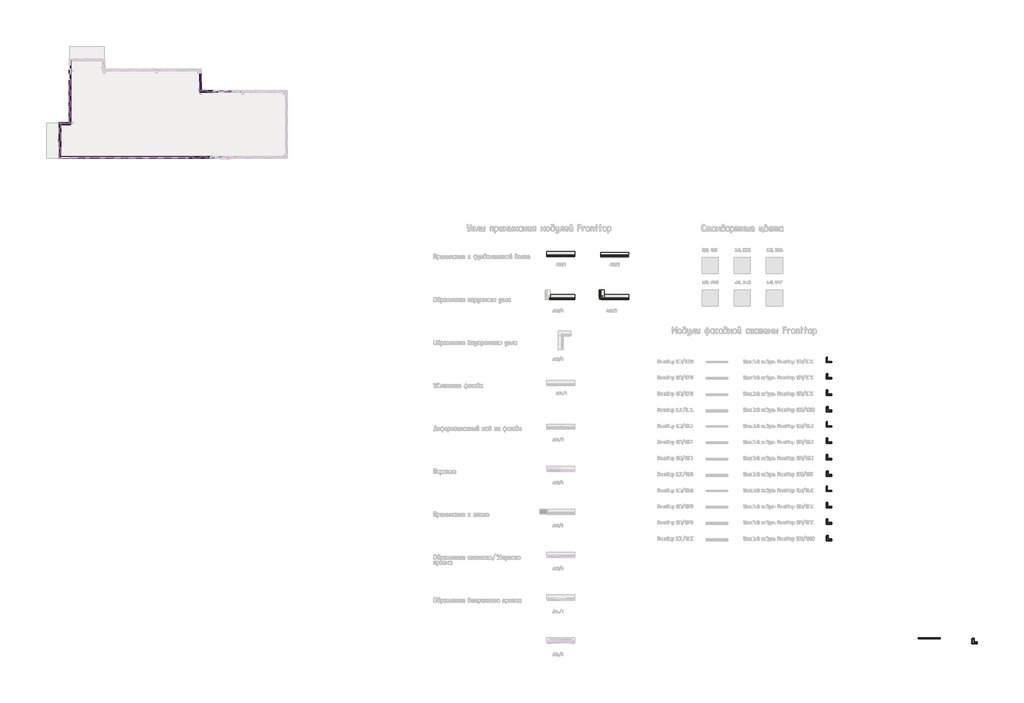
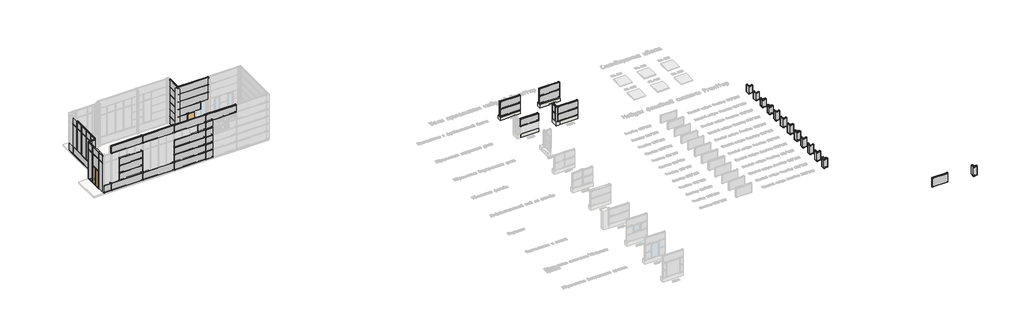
# One storey, part 2 of 37: 76 plates, 49 members, 5 walls, 2 doors.
"""IFC4 building model written with IfcOpenShell, lengths in millimetres."""

from ifc_helpers import new_model, si_unit, frame, origin, place, context, project, spatial, polyline, outline, extrude, faceted_brep, transform, mapped, element, save
from components import door_13e61a2d, door_73c47b8f, member_19b48848, member_60ea8178, member_1467ba8b, member_0bcd7f07, member_afb0b622, member_d378b2fa, member_7f0eb0d8, member_1360d4d5, member_b6a986cb, member_9443a213, member_ded9e280, member_bca74f28, member_2f80f005, member_458d3598, member_c640f651, member_561d3305, member_43d6c8c1, member_f6ba3ffe, member_50a310e9, member_60e476da, plate_00605f7b, plate_8c76a23d, plate_b143e3d3, plate_4cc33baf, plate_7c7baba4, plate_77f62aa5, plate_39042a1e, plate_61407ef3, plate_adcc6613, plate_a005b7e8, plate_de1b0bd9, plate_2dd25033, plate_2335a061, plate_3d081e60, plate_9b882203, plate_18d6e1de, plate_2167fe72, plate_63f1b3db, plate_d942872d, plate_74780102, plate_8fcb3820, plate_193a82d2, plate_190e3803, plate_88117748, plate_256fc86d, plate_e8e85041, plate_d1008bc7, plate_288d69b8, plate_0bb42676, plate_f072485e, plate_5b8e8318, plate_c792359b, plate_c6ed5419, plate_febac7e2, plate_f2ca9579, plate_e2e9dd5a, plate_540ac33f, plate_9b784b5d, plate_2d9094d1, plate_6557afd7, plate_e1a31c6e, plate_0956e401, plate_14ed3cdb, plate_e059e824, plate_a08c5f0f, plate_09dc59af, plate_f44200e2, plate_d0c9d429

model = new_model("IFC4")

# Units and contexts
model_context = context("Model", 3, world=origin())
ifc_project = project(units=[si_unit("LENGTHUNIT", "METRE", prefix="MILLI")], contexts=[model_context])

# Site, building, storey
site = spatial("IfcSite", under=ifc_project)
building = spatial("IfcBuilding", under=site)
storey = spatial("IfcBuildingStorey", under=building, Name="Этаж 01", Elevation=0.0)

# Doors
placement = place(None, origin())
door_shape = door_13e61a2d(model_context)
element("IfcDoor", 1, ObjectType="Дверь-Витраж-Двойная-Витрина : Дверь-Витраж-Двойная-Витрина", at=placement, inside=storey, context=model_context, shape_type="MappedRepresentation", body=[
    mapped(door_shape, transform((490.0, 1500.0, 75.0), x_axis=(0.0, 1.0, 0.0), y_axis=(-1.0, 0.0, 0.0), z_axis=(0.0, 0.0, 1.0))),
])
door_2_shape = door_73c47b8f(model_context)
element("IfcDoor", 2, ObjectType="Дверь-Витраж-Одинарная-Остекление Фронтсайд : Дверь-Витраж-Одинарная-Остекление Фронтсайд", at=placement, inside=storey, context=model_context, shape_type="MappedRepresentation", body=[
    mapped(door_2_shape, transform((15260.0, 6000.0, 25.0), x_axis=(1.0, 0.0, 0.0), y_axis=(0.0, 1.0, 0.0), z_axis=(0.0, 0.0, 1.0))),
])

# Members
member_shape = member_19b48848(model_context)
element("IfcMember", 3, ObjectType="Прямоугольный импост : 50х100", at=placement, inside=storey, context=model_context, shape_type="MappedRepresentation", body=[
    mapped(member_shape, transform((1500.0, 3100.0000002, 4025.0), x_axis=(1.0, 0.0, 0.0), y_axis=(0.0, -1.0, 0.0), z_axis=(0.0, 0.0, -1.0))),
])
element("IfcMember", 4, ObjectType="Прямоугольный импост : 50х100", at=placement, inside=storey, context=model_context, shape_type="MappedRepresentation", body=[
    mapped(member_shape, transform((540.0, 3100.0000002, 4975.0), x_axis=(-1.0, 0.0, 0.0), y_axis=(0.0, -1.0, 0.0), z_axis=(0.0, 0.0, 1.0))),
])
element("IfcMember", 5, ObjectType="Прямоугольный импост : 50х100", at=placement, inside=storey, context=model_context, shape_type="MappedRepresentation", body=[
    mapped(member_shape, transform((1400.0, 3165.0, 4975.0), x_axis=(0.0, -1.0, 0.0), y_axis=(1.0, 0.0, 0.0), z_axis=(0.0, 0.0, 1.0))),
])
member_2_shape = member_60ea8178(model_context)
element("IfcMember", 6, ObjectType="Прямоугольный импост : 50х100", at=placement, inside=storey, context=model_context, shape_type="MappedRepresentation", body=[
    mapped(member_2_shape, transform((1450.0, 3100.0000002, 4025.0), x_axis=(0.0, 0.0, 1.0), y_axis=(0.0, -1.0, 0.0), z_axis=(1.0, 0.0, 0.0))),
])
member_3_shape = member_1467ba8b(model_context)
element("IfcMember", 7, ObjectType="Прямоугольный импост : 50х100", at=placement, inside=storey, context=model_context, shape_type="MappedRepresentation", body=[
    mapped(member_3_shape, transform((1400.0, 4165.0, 1025.0), x_axis=(0.0, 0.0, -1.0), y_axis=(1.0, 0.0, 0.0), z_axis=(0.0, -1.0, 0.0))),
])
element("IfcMember", 8, ObjectType="Прямоугольный импост : 50х100", at=placement, inside=storey, context=model_context, shape_type="MappedRepresentation", body=[
    mapped(member_3_shape, transform((1400.0, 5165.0, 1025.0), x_axis=(0.0, 0.0, -1.0), y_axis=(1.0, 0.0, 0.0), z_axis=(0.0, -1.0, 0.0))),
])
element("IfcMember", 9, ObjectType="Прямоугольный импост : 50х100", at=placement, inside=storey, context=model_context, shape_type="MappedRepresentation", body=[
    mapped(member_3_shape, transform((1400.0, 6165.0, 1025.0), x_axis=(0.0, 0.0, -1.0), y_axis=(1.0, 0.0, 0.0), z_axis=(0.0, -1.0, 0.0))),
])
element("IfcMember", 10, ObjectType="Прямоугольный импост : 50х100", at=placement, inside=storey, context=model_context, shape_type="MappedRepresentation", body=[
    mapped(member_3_shape, transform((1400.0, 7165.0, 1025.0), x_axis=(0.0, 0.0, -1.0), y_axis=(1.0, 0.0, 0.0), z_axis=(0.0, -1.0, 0.0))),
])
element("IfcMember", 11, ObjectType="Прямоугольный импост : 50х100", at=placement, inside=storey, context=model_context, shape_type="MappedRepresentation", body=[
    mapped(member_3_shape, transform((1400.0, 5165.0, 5025.0), x_axis=(0.0, 0.0, 1.0), y_axis=(1.0, 0.0, 0.0), z_axis=(0.0, 1.0, 0.0))),
])
element("IfcMember", 12, ObjectType="Прямоугольный импост : 50х100", at=placement, inside=storey, context=model_context, shape_type="MappedRepresentation", body=[
    mapped(member_3_shape, transform((1400.0, 6165.0, 5025.0), x_axis=(0.0, 0.0, 1.0), y_axis=(1.0, 0.0, 0.0), z_axis=(0.0, 1.0, 0.0))),
])
element("IfcMember", 13, ObjectType="Прямоугольный импост : 50х100", at=placement, inside=storey, context=model_context, shape_type="MappedRepresentation", body=[
    mapped(member_3_shape, transform((1400.0, 7165.0, 5025.0), x_axis=(0.0, 0.0, 1.0), y_axis=(1.0, 0.0, 0.0), z_axis=(0.0, 1.0, 0.0))),
])
member_4_shape = member_0bcd7f07(model_context)
element("IfcMember", 14, ObjectType="Прямоугольный импост : 50х100", at=placement, inside=storey, context=model_context, shape_type="MappedRepresentation", body=[
    mapped(member_4_shape, transform((1500.0, 3100.0000002, 1075.0), x_axis=(1.0, 0.0, 0.0), y_axis=(0.0, -1.0, 0.0), z_axis=(0.0, 0.0, -1.0))),
])
element("IfcMember", 15, ObjectType="Прямоугольный импост : 50х100", at=placement, inside=storey, context=model_context, shape_type="MappedRepresentation", body=[
    mapped(member_4_shape, transform((540.0, 3100.0000002, 4025.0), x_axis=(-1.0, 0.0, 0.0), y_axis=(0.0, -1.0, 0.0), z_axis=(0.0, 0.0, 1.0))),
])
member_5_shape = member_afb0b622(model_context)
element("IfcMember", 16, ObjectType="Прямоугольный импост : 50х100", at=placement, inside=storey, context=model_context, shape_type="MappedRepresentation", body=[
    mapped(member_5_shape, transform((490.0, 3100.0, 5025.0), x_axis=(0.0, 0.0, 1.0), y_axis=(1.0, 0.0, 0.0), z_axis=(0.0, 1.0, 0.0))),
])
member_6_shape = member_d378b2fa(model_context)
element("IfcMember", 17, ObjectType="Прямоугольный импост : 50х100", at=placement, inside=storey, context=model_context, shape_type="MappedRepresentation", body=[
    mapped(member_6_shape, transform((490.0, 2200.0, 5025.0), x_axis=(0.0, 0.0, 1.0), y_axis=(1.0, 0.0, 0.0), z_axis=(0.0, 1.0, 0.0))),
])
element("IfcMember", 18, ObjectType="Прямоугольный импост : 50х100", at=placement, inside=storey, context=model_context, shape_type="MappedRepresentation", body=[
    mapped(member_shape, transform((490.0, 2200.0, 25.0), x_axis=(0.0, 0.0, -1.0), y_axis=(1.0, 0.0, 0.0), z_axis=(0.0, -1.0, 0.0))),
])
element("IfcMember", 19, ObjectType="Прямоугольный импост : 50х100", at=placement, inside=storey, context=model_context, shape_type="MappedRepresentation", body=[
    mapped(member_shape, transform((490.0, 800.0, 5025.0), x_axis=(0.0, 0.0, 1.0), y_axis=(1.0, 0.0, 0.0), z_axis=(0.0, 1.0, 0.0))),
])
element("IfcMember", 20, ObjectType="Прямоугольный импост : 50х100", at=placement, inside=storey, context=model_context, shape_type="MappedRepresentation", body=[
    mapped(member_6_shape, transform((490.0, 800.0, 25.0), x_axis=(0.0, 0.0, -1.0), y_axis=(1.0, 0.0, 0.0), z_axis=(0.0, -1.0, 0.0))),
])
member_7_shape = member_7f0eb0d8(model_context)
element("IfcMember", 21, ObjectType="Прямоугольный импост : 50х100", at=placement, inside=storey, context=model_context, shape_type="MappedRepresentation", body=[
    mapped(member_7_shape, transform((490.0, 3150.0, 75.0), x_axis=(0.0, 1.0, 0.0), y_axis=(1.0, 0.0, 0.0), z_axis=(0.0, 0.0, -1.0))),
])
member_8_shape = member_1360d4d5(model_context)
element("IfcMember", 22, ObjectType="Прямоугольный импост : 50х100", at=placement, inside=storey, context=model_context, shape_type="MappedRepresentation", body=[
    mapped(member_8_shape, transform((1500.0, 3100.0000002, 5025.0), x_axis=(0.0, 0.0, 1.0), y_axis=(0.0, -1.0, 0.0), z_axis=(1.0, 0.0, 0.0))),
])
element("IfcMember", 23, ObjectType="Прямоугольный импост : 50х100", at=placement, inside=storey, context=model_context, shape_type="MappedRepresentation", body=[
    mapped(member_8_shape, transform((540.0, 3100.0000002, 1025.0), x_axis=(0.0, 0.0, -1.0), y_axis=(0.0, -1.0, 0.0), z_axis=(-1.0, 0.0, 0.0))),
])
element("IfcMember", 24, ObjectType="Прямоугольный импост : 50х100", at=placement, inside=storey, context=model_context, shape_type="MappedRepresentation", body=[
    mapped(member_3_shape, transform((490.0, 3150.0, 4025.0), x_axis=(0.0, 1.0, 0.0), y_axis=(1.0, 0.0, 0.0), z_axis=(0.0, 0.0, -1.0))),
])
member_9_shape = member_b6a986cb(model_context)
element("IfcMember", 25, ObjectType="Прямоугольный импост : 50х100", at=placement, inside=storey, context=model_context, shape_type="MappedRepresentation", body=[
    mapped(member_9_shape, transform((1400.0, 3165.0, 4025.0), x_axis=(0.0, -1.0, 0.0), y_axis=(1.0, 0.0, 0.0), z_axis=(0.0, 0.0, 1.0))),
])
member_10_shape = member_9443a213(model_context)
element("IfcMember", 26, ObjectType="Прямоугольный импост : 50х100", at=placement, inside=storey, context=model_context, shape_type="MappedRepresentation", body=[
    mapped(member_10_shape, transform((490.0, 3150.0, 2425.0), x_axis=(0.0, 1.0, 0.0), y_axis=(1.0, 0.0, 0.0), z_axis=(0.0, 0.0, -1.0))),
])
element("IfcMember", 27, ObjectType="Прямоугольный импост : 50х100", at=placement, inside=storey, context=model_context, shape_type="MappedRepresentation", body=[
    mapped(member_shape, transform((1400.0, 3215.0, 1025.0), x_axis=(0.0, 0.0, -1.0), y_axis=(1.0, 0.0, 0.0), z_axis=(0.0, -1.0, 0.0))),
])
member_11_shape = member_ded9e280(model_context)
element("IfcMember", 28, ObjectType="Прямоугольный импост : 50х100", at=placement, inside=storey, context=model_context, shape_type="MappedRepresentation", body=[
    mapped(member_11_shape, transform((1400.0, 4165.0, 4025.0), x_axis=(0.0, 0.0, 1.0), y_axis=(1.0, 0.0, 0.0), z_axis=(0.0, 1.0, 0.0))),
])
member_12_shape = member_bca74f28(model_context)
element("IfcMember", 29, ObjectType="Прямоугольный импост : 50х100", at=placement, inside=storey, context=model_context, shape_type="MappedRepresentation", body=[
    mapped(member_12_shape, transform((1400.0, 5165.0, 4025.0), x_axis=(0.0, 0.0, 1.0), y_axis=(1.0, 0.0, 0.0), z_axis=(0.0, 1.0, 0.0))),
])
element("IfcMember", 30, ObjectType="Прямоугольный импост : 50х100", at=placement, inside=storey, context=model_context, shape_type="MappedRepresentation", body=[
    mapped(member_12_shape, transform((1400.0, 6165.0, 4025.0), x_axis=(0.0, 0.0, 1.0), y_axis=(1.0, 0.0, 0.0), z_axis=(0.0, 1.0, 0.0))),
])
element("IfcMember", 31, ObjectType="Прямоугольный импост : 50х100", at=placement, inside=storey, context=model_context, shape_type="MappedRepresentation", body=[
    mapped(member_12_shape, transform((1400.0, 7165.0, 4025.0), x_axis=(0.0, 0.0, 1.0), y_axis=(1.0, 0.0, 0.0), z_axis=(0.0, 1.0, 0.0))),
])
element("IfcMember", 32, ObjectType="Прямоугольный импост : 50х100", at=placement, inside=storey, context=model_context, shape_type="MappedRepresentation", body=[
    mapped(member_12_shape, transform((1400.0, 8165.0, 4025.0), x_axis=(0.0, 0.0, 1.0), y_axis=(1.0, 0.0, 0.0), z_axis=(0.0, 1.0, 0.0))),
])
member_13_shape = member_2f80f005(model_context)
element("IfcMember", 33, ObjectType="Прямоугольный импост : 50х100", at=placement, inside=storey, context=model_context, shape_type="MappedRepresentation", body=[
    mapped(member_13_shape, transform((1400.0, 4165.0, 1075.0), x_axis=(0.0, 1.0, 0.0), y_axis=(1.0, 0.0, 0.0), z_axis=(0.0, 0.0, -1.0))),
])
element("IfcMember", 34, ObjectType="Прямоугольный импост : 50х100", at=placement, inside=storey, context=model_context, shape_type="MappedRepresentation", body=[
    mapped(member_13_shape, transform((1400.0, 5165.0, 1075.0), x_axis=(0.0, 1.0, 0.0), y_axis=(1.0, 0.0, 0.0), z_axis=(0.0, 0.0, -1.0))),
])
element("IfcMember", 35, ObjectType="Прямоугольный импост : 50х100", at=placement, inside=storey, context=model_context, shape_type="MappedRepresentation", body=[
    mapped(member_13_shape, transform((1400.0, 6165.0, 1075.0), x_axis=(0.0, 1.0, 0.0), y_axis=(1.0, 0.0, 0.0), z_axis=(0.0, 0.0, -1.0))),
])
element("IfcMember", 36, ObjectType="Прямоугольный импост : 50х100", at=placement, inside=storey, context=model_context, shape_type="MappedRepresentation", body=[
    mapped(member_13_shape, transform((1400.0, 7165.0, 1075.0), x_axis=(0.0, 1.0, 0.0), y_axis=(1.0, 0.0, 0.0), z_axis=(0.0, 0.0, -1.0))),
])
member_14_shape = member_458d3598(model_context)
element("IfcMember", 37, ObjectType="Прямоугольный импост : 50х100", at=placement, inside=storey, context=model_context, shape_type="MappedRepresentation", body=[
    mapped(member_14_shape, transform((490.0, 2200.0, 4050.0), x_axis=(0.0, 1.0, 0.0), y_axis=(1.0, 0.0, 0.0), z_axis=(0.0, 0.0, -1.0))),
])
element("IfcMember", 38, ObjectType="Прямоугольный импост : 50х100", at=placement, inside=storey, context=model_context, shape_type="MappedRepresentation", body=[
    mapped(member_14_shape, transform((490.0, 800.0, 4050.0), x_axis=(0.0, 1.0, 0.0), y_axis=(1.0, 0.0, 0.0), z_axis=(0.0, 0.0, -1.0))),
])
element("IfcMember", 39, ObjectType="Прямоугольный импост : 50х100", at=placement, inside=storey, context=model_context, shape_type="MappedRepresentation", body=[
    mapped(member_14_shape, transform((1400.0, 4165.0, 4050.0), x_axis=(0.0, 1.0, 0.0), y_axis=(1.0, 0.0, 0.0), z_axis=(0.0, 0.0, -1.0))),
])
element("IfcMember", 40, ObjectType="Прямоугольный импост : 50х100", at=placement, inside=storey, context=model_context, shape_type="MappedRepresentation", body=[
    mapped(member_14_shape, transform((1400.0, 5165.0, 4050.0), x_axis=(0.0, 1.0, 0.0), y_axis=(1.0, 0.0, 0.0), z_axis=(0.0, 0.0, -1.0))),
])
element("IfcMember", 41, ObjectType="Прямоугольный импост : 50х100", at=placement, inside=storey, context=model_context, shape_type="MappedRepresentation", body=[
    mapped(member_14_shape, transform((1400.0, 6165.0, 4050.0), x_axis=(0.0, 1.0, 0.0), y_axis=(1.0, 0.0, 0.0), z_axis=(0.0, 0.0, -1.0))),
])
element("IfcMember", 42, ObjectType="Прямоугольный импост : 50х100", at=placement, inside=storey, context=model_context, shape_type="MappedRepresentation", body=[
    mapped(member_14_shape, transform((1400.0, 7165.0, 4050.0), x_axis=(0.0, 1.0, 0.0), y_axis=(1.0, 0.0, 0.0), z_axis=(0.0, 0.0, -1.0))),
])
member_15_shape = member_c640f651(model_context)
element("IfcMember", 43, ObjectType="Прямоугольный импост : 50х100", at=placement, inside=storey, context=model_context, shape_type="MappedRepresentation", body=[
    mapped(member_15_shape, transform((490.0, 800.0, 4025.0), x_axis=(0.0, 0.0, 1.0), y_axis=(1.0, 0.0, 0.0), z_axis=(0.0, 1.0, 0.0))),
])
element("IfcMember", 44, ObjectType="Прямоугольный импост : 50х100", at=placement, inside=storey, context=model_context, shape_type="MappedRepresentation", body=[
    mapped(member_15_shape, transform((490.0, 3100.0, 4025.0), x_axis=(0.0, 0.0, 1.0), y_axis=(1.0, 0.0, 0.0), z_axis=(0.0, 1.0, 0.0))),
])
member_16_shape = member_561d3305(model_context)
element("IfcMember", 45, ObjectType="Прямоугольный импост : 50х100", at=placement, inside=storey, context=model_context, shape_type="MappedRepresentation", body=[
    mapped(member_16_shape, transform((490.0, 2200.0, 75.0), x_axis=(0.0, 1.0, 0.0), y_axis=(1.0, 0.0, 0.0), z_axis=(0.0, 0.0, -1.0))),
])
element("IfcMember", 46, ObjectType="Прямоугольный импост : 50х100", at=placement, inside=storey, context=model_context, shape_type="MappedRepresentation", body=[
    mapped(member_16_shape, transform((490.0, 800.0, 75.0), x_axis=(0.0, 1.0, 0.0), y_axis=(1.0, 0.0, 0.0), z_axis=(0.0, 0.0, -1.0))),
])
member_17_shape = member_43d6c8c1(model_context)
element("IfcMember", 47, ObjectType="Прямоугольный импост : 50х100", at=placement, inside=storey, context=model_context, shape_type="MappedRepresentation", body=[
    mapped(member_17_shape, transform((490.0, 2200.0, 4025.0), x_axis=(0.0, 0.0, 1.0), y_axis=(1.0, 0.0, 0.0), z_axis=(0.0, 1.0, 0.0))),
])
member_18_shape = member_f6ba3ffe(model_context)
element("IfcMember", 48, ObjectType="Прямоугольный импост : 50х100", at=placement, inside=storey, context=model_context, shape_type="MappedRepresentation", body=[
    mapped(member_18_shape, transform((490.0, 2225.0, 2425.0), x_axis=(0.0, 0.0, 1.0), y_axis=(1.0, 0.0, 0.0), z_axis=(0.0, 1.0, 0.0))),
])
member_19_shape = member_50a310e9(model_context)
element("IfcMember", 49, ObjectType="Прямоугольный импост : 50х100", at=placement, inside=storey, context=model_context, shape_type="MappedRepresentation", body=[
    mapped(member_19_shape, transform((490.0, 800.0, 2450.0), x_axis=(0.0, 1.0, 0.0), y_axis=(1.0, 0.0, 0.0), z_axis=(0.0, 0.0, -1.0))),
])
element("IfcMember", 50, ObjectType="Прямоугольный импост : 50х100", at=placement, inside=storey, context=model_context, shape_type="MappedRepresentation", body=[
    mapped(member_19_shape, transform((490.0, 2200.0, 2450.0), x_axis=(0.0, 1.0, 0.0), y_axis=(1.0, 0.0, 0.0), z_axis=(0.0, 0.0, -1.0))),
])
member_20_shape = member_60e476da(model_context)
element("IfcMember", 51, ObjectType="Прямоугольный импост : 50х100", at=placement, inside=storey, context=model_context, shape_type="MappedRepresentation", body=[
    mapped(member_20_shape, transform((1400.0, 4165.0, 5025.0), x_axis=(0.0, 0.0, 1.0), y_axis=(1.0, 0.0, 0.0), z_axis=(0.0, 1.0, 0.0))),
])

# Plates
plate_shape = plate_00605f7b(model_context)
element("IfcPlate", 52, ObjectType="Системная панель : ADSK_Cтеклопакет_25", at=placement, inside=storey, context=model_context, shape_type="MappedRepresentation", body=[
    mapped(plate_shape, transform((1400.0, 3677.5, 4050.0), x_axis=(0.0, 1.0, 0.0), y_axis=(-1.0, 0.0, 0.0), z_axis=(0.0, 0.0, 1.0))),
])
plate_2_shape = plate_8c76a23d(model_context)
element("IfcPlate", 53, ObjectType="Системная панель : ADSK_Cтеклопакет_25", at=placement, inside=storey, context=model_context, shape_type="MappedRepresentation", body=[
    mapped(plate_2_shape, transform((1400.0, 3677.5, 1075.0), x_axis=(0.0, 1.0, 0.0), y_axis=(-1.0, 0.0, 0.0), z_axis=(0.0, 0.0, 1.0))),
])
plate_3_shape = plate_b143e3d3(model_context)
element("IfcPlate", 54, ObjectType="Системная панель : ADSK_Cтеклопакет_25", at=placement, inside=storey, context=model_context, shape_type="MappedRepresentation", body=[
    mapped(plate_3_shape, transform((1400.0, 4665.0, 1075.0), x_axis=(0.0, 1.0, 0.0), y_axis=(-1.0, 0.0, 0.0), z_axis=(0.0, 0.0, 1.0))),
])
element("IfcPlate", 55, ObjectType="Системная панель : ADSK_Cтеклопакет_25", at=placement, inside=storey, context=model_context, shape_type="MappedRepresentation", body=[
    mapped(plate_3_shape, transform((1400.0, 5665.0, 1075.0), x_axis=(0.0, 1.0, 0.0), y_axis=(-1.0, 0.0, 0.0), z_axis=(0.0, 0.0, 1.0))),
])
element("IfcPlate", 56, ObjectType="Системная панель : ADSK_Cтеклопакет_25", at=placement, inside=storey, context=model_context, shape_type="MappedRepresentation", body=[
    mapped(plate_3_shape, transform((1400.0, 6665.0, 1075.0), x_axis=(0.0, 1.0, 0.0), y_axis=(-1.0, 0.0, 0.0), z_axis=(0.0, 0.0, 1.0))),
])
element("IfcPlate", 57, ObjectType="Системная панель : ADSK_Cтеклопакет_25", at=placement, inside=storey, context=model_context, shape_type="MappedRepresentation", body=[
    mapped(plate_3_shape, transform((1400.0, 7665.0, 1075.0), x_axis=(0.0, 1.0, 0.0), y_axis=(-1.0, 0.0, 0.0), z_axis=(0.0, 0.0, 1.0))),
])
plate_4_shape = plate_4cc33baf(model_context)
element("IfcPlate", 58, ObjectType="Системная панель : ADSK_Cтеклопакет_25", at=placement, inside=storey, context=model_context, shape_type="MappedRepresentation", body=[
    mapped(plate_4_shape, transform((1400.0, 4665.0, 4050.0), x_axis=(0.0, 1.0, 0.0), y_axis=(-1.0, 0.0, 0.0), z_axis=(0.0, 0.0, 1.0))),
])
element("IfcPlate", 59, ObjectType="Системная панель : ADSK_Cтеклопакет_25", at=placement, inside=storey, context=model_context, shape_type="MappedRepresentation", body=[
    mapped(plate_4_shape, transform((1400.0, 5665.0, 4050.0), x_axis=(0.0, 1.0, 0.0), y_axis=(-1.0, 0.0, 0.0), z_axis=(0.0, 0.0, 1.0))),
])
element("IfcPlate", 60, ObjectType="Системная панель : ADSK_Cтеклопакет_25", at=placement, inside=storey, context=model_context, shape_type="MappedRepresentation", body=[
    mapped(plate_4_shape, transform((1400.0, 6665.0, 4050.0), x_axis=(0.0, 1.0, 0.0), y_axis=(-1.0, 0.0, 0.0), z_axis=(0.0, 0.0, 1.0))),
])
element("IfcPlate", 61, ObjectType="Системная панель : ADSK_Cтеклопакет_25", at=placement, inside=storey, context=model_context, shape_type="MappedRepresentation", body=[
    mapped(plate_4_shape, transform((1400.0, 7665.0, 4050.0), x_axis=(0.0, 1.0, 0.0), y_axis=(-1.0, 0.0, 0.0), z_axis=(0.0, 0.0, 1.0))),
])
plate_5_shape = plate_7c7baba4(model_context)
element("IfcPlate", 62, ObjectType="Системная панель : ADSK_Cтеклопакет_25", at=placement, inside=storey, context=model_context, shape_type="MappedRepresentation", body=[
    mapped(plate_5_shape, transform((490.0, 337.5, 4050.0), x_axis=(0.0, 1.0, 0.0), y_axis=(-1.0, 0.0, 0.0), z_axis=(0.0, 0.0, 1.0))),
])
element("IfcPlate", 63, ObjectType="Системная панель : ADSK_Cтеклопакет_25", at=placement, inside=storey, context=model_context, shape_type="MappedRepresentation", body=[
    mapped(plate_5_shape, transform((490.0, 2662.5, 4050.0), x_axis=(0.0, 1.0, 0.0), y_axis=(-1.0, 0.0, 0.0), z_axis=(0.0, 0.0, 1.0))),
])
plate_6_shape = plate_77f62aa5(model_context)
element("IfcPlate", 64, ObjectType="Системная панель : ADSK_Cтеклопакет_25", at=placement, inside=storey, context=model_context, shape_type="MappedRepresentation", body=[
    mapped(plate_6_shape, transform((490.0, 1500.0, 4050.0), x_axis=(0.0, 1.0, 0.0), y_axis=(-1.0, 0.0, 0.0), z_axis=(0.0, 0.0, 1.0))),
])
plate_7_shape = plate_39042a1e(model_context)
element("IfcPlate", 65, ObjectType="Системная панель : ADSK_Cтеклопакет_25", at=placement, inside=storey, context=model_context, shape_type="MappedRepresentation", body=[
    mapped(plate_7_shape, transform((490.0, 1500.0, 2450.0), x_axis=(0.0, 1.0, 0.0), y_axis=(-1.0, 0.0, 0.0), z_axis=(0.0, 0.0, 1.0))),
])
plate_8_shape = plate_61407ef3(model_context)
element("IfcPlate", 66, ObjectType="Системная панель : ADSK_Cтеклопакет_25", at=placement, inside=storey, context=model_context, shape_type="MappedRepresentation", body=[
    mapped(plate_8_shape, transform((490.0, 337.5, 75.0), x_axis=(0.0, 1.0, 0.0), y_axis=(-1.0, 0.0, 0.0), z_axis=(0.0, 0.0, 1.0))),
])
element("IfcPlate", 67, ObjectType="Системная панель : ADSK_Cтеклопакет_25", at=placement, inside=storey, context=model_context, shape_type="MappedRepresentation", body=[
    mapped(plate_8_shape, transform((490.0, 2662.5, 75.0), x_axis=(0.0, 1.0, 0.0), y_axis=(-1.0, 0.0, 0.0), z_axis=(0.0, 0.0, 1.0))),
])
plate_9_shape = plate_adcc6613(model_context)
element("IfcPlate", 68, ObjectType="Системная панель : ADSK_Cтеклопакет_25", at=placement, inside=storey, context=model_context, shape_type="MappedRepresentation", body=[
    mapped(plate_9_shape, transform((1020.0, 3100.0000002, 1075.0), x_axis=(1.0, 0.0, 0.0), y_axis=(0.0, 1.0, 0.0), z_axis=(0.0, 0.0, 1.0))),
])
plate_10_shape = plate_a005b7e8(model_context)
element("IfcPlate", 69, ObjectType="Системная панель : ADSK_Cтеклопакет_25", at=placement, inside=storey, context=model_context, shape_type="MappedRepresentation", body=[
    mapped(plate_10_shape, transform((1020.0, 3100.0000002, 4050.0), x_axis=(1.0, 0.0, 0.0), y_axis=(0.0, 1.0, 0.0), z_axis=(0.0, 0.0, 1.0))),
])
plate_11_shape = plate_de1b0bd9(model_context)
element("IfcPlate", 70, ObjectType="Fronttop : Fronttop 150/1000", at=placement, inside=storey, context=model_context, shape_type="MappedRepresentation", body=[
    mapped(plate_11_shape, transform((14115.0, 6000.0, 25.0), x_axis=(1.0, 0.0, 0.0), y_axis=(0.0, 1.0, 0.0), z_axis=(0.0, 0.0, 1.0))),
])
element("IfcPlate", 71, ObjectType="Fronttop : Fronttop 150/1000", at=placement, inside=storey, context=model_context, shape_type="MappedRepresentation", body=[
    mapped(plate_11_shape, transform((14115.0, 6000.0, 1025.0), x_axis=(1.0, 0.0, 0.0), y_axis=(0.0, 1.0, 0.0), z_axis=(0.0, 0.0, 1.0))),
])
plate_12_shape = plate_2dd25033(model_context)
element("IfcPlate", 72, ObjectType="Fronttop : Fronttop 150/1000", at=placement, inside=storey, context=model_context, shape_type="MappedRepresentation", body=[
    mapped(plate_12_shape, transform((14995.0, 6000.0, 2025.0), x_axis=(1.0, 0.0, 0.0), y_axis=(0.0, 1.0, 0.0), z_axis=(0.0, 0.0, 1.0))),
])
plate_13_shape = plate_2335a061(model_context)
element("IfcPlate", 73, ObjectType="Fronttop : Fronttop 150/1000", at=placement, inside=storey, context=model_context, shape_type="MappedRepresentation", body=[
    mapped(plate_13_shape, transform((15500.0, 6000.0, 3025.0), x_axis=(1.0, 0.0, 0.0), y_axis=(0.0, 1.0, 0.0), z_axis=(0.0, 0.0, 1.0))),
])
element("IfcPlate", 74, ObjectType="Fronttop : Fronttop 150/1000", at=placement, inside=storey, context=model_context, shape_type="MappedRepresentation", body=[
    mapped(plate_13_shape, transform((15500.0, 6000.0, 4025.0), x_axis=(1.0, 0.0, 0.0), y_axis=(0.0, 1.0, 0.0), z_axis=(0.0, 0.0, 1.0))),
])
element("IfcPlate", 75, ObjectType="Fronttop : Fronttop 150/1000", at=placement, inside=storey, context=model_context, shape_type="MappedRepresentation", body=[
    mapped(plate_13_shape, transform((15500.0, 6000.0, 5025.0), x_axis=(1.0, 0.0, 0.0), y_axis=(0.0, 1.0, 0.0), z_axis=(0.0, 0.0, 1.0))),
])
plate_14_shape = plate_3d081e60(model_context)
element("IfcPlate", 76, ObjectType="Fronttop : Fronttop 150/1000", at=placement, inside=storey, context=model_context, shape_type="MappedRepresentation", body=[
    mapped(plate_14_shape, transform((13500.0578348, 6982.5577046, 25.0), x_axis=(0.0, -1.0, 0.0), y_axis=(1.0, 0.0, 0.0), z_axis=(0.0, 0.0, 1.0))),
])
element("IfcPlate", 77, ObjectType="Fronttop : Fronttop 150/1000", at=placement, inside=storey, context=model_context, shape_type="MappedRepresentation", body=[
    mapped(plate_14_shape, transform((13500.0578348, 6982.5577046, 1025.0), x_axis=(0.0, -1.0, 0.0), y_axis=(1.0, 0.0, 0.0), z_axis=(0.0, 0.0, 1.0))),
])
element("IfcPlate", 78, ObjectType="Fronttop : Fronttop 150/1000", at=placement, inside=storey, context=model_context, shape_type="MappedRepresentation", body=[
    mapped(plate_14_shape, transform((13500.0578348, 6982.5577046, 2025.0), x_axis=(0.0, -1.0, 0.0), y_axis=(1.0, 0.0, 0.0), z_axis=(0.0, 0.0, 1.0))),
])
element("IfcPlate", 79, ObjectType="Fronttop : Fronttop 150/1000", at=placement, inside=storey, context=model_context, shape_type="MappedRepresentation", body=[
    mapped(plate_14_shape, transform((13500.0578348, 6982.5577046, 3025.0), x_axis=(0.0, -1.0, 0.0), y_axis=(1.0, 0.0, 0.0), z_axis=(0.0, 0.0, 1.0))),
])
element("IfcPlate", 80, ObjectType="Fronttop : Fronttop 150/1000", at=placement, inside=storey, context=model_context, shape_type="MappedRepresentation", body=[
    mapped(plate_14_shape, transform((13500.0578348, 6982.5577046, 4025.0), x_axis=(0.0, -1.0, 0.0), y_axis=(1.0, 0.0, 0.0), z_axis=(0.0, 0.0, 1.0))),
])
element("IfcPlate", 81, ObjectType="Fronttop : Fronttop 150/1000", at=placement, inside=storey, context=model_context, shape_type="MappedRepresentation", body=[
    mapped(plate_14_shape, transform((13500.0578348, 6982.5577046, 5025.0), x_axis=(0.0, -1.0, 0.0), y_axis=(1.0, 0.0, 0.0), z_axis=(0.0, 0.0, 1.0))),
])
element("IfcPlate", 82, ObjectType="Fronttop : Fronttop 150/1000", at=placement, inside=storey, context=model_context, shape_type="MappedRepresentation", body=[
    mapped(plate_13_shape, transform((11500.0, 0.0, 25.0), x_axis=(-1.0, 0.0, 0.0), y_axis=(0.0, -1.0, 0.0), z_axis=(0.0, 0.0, 1.0))),
])
element("IfcPlate", 83, ObjectType="Fronttop : Fronttop 150/1000", at=placement, inside=storey, context=model_context, shape_type="MappedRepresentation", body=[
    mapped(plate_13_shape, transform((11500.0, 0.0, 1025.0), x_axis=(-1.0, 0.0, 0.0), y_axis=(0.0, -1.0, 0.0), z_axis=(0.0, 0.0, 1.0))),
])
element("IfcPlate", 84, ObjectType="Fronttop : Fronttop 150/1000", at=placement, inside=storey, context=model_context, shape_type="MappedRepresentation", body=[
    mapped(plate_13_shape, transform((11500.0, 0.0, 2025.0), x_axis=(-1.0, 0.0, 0.0), y_axis=(0.0, -1.0, 0.0), z_axis=(0.0, 0.0, 1.0))),
])
element("IfcPlate", 85, ObjectType="Fronttop : Fronttop 150/1000", at=placement, inside=storey, context=model_context, shape_type="MappedRepresentation", body=[
    mapped(plate_13_shape, transform((11500.0, 0.0, 3025.0), x_axis=(-1.0, 0.0, 0.0), y_axis=(0.0, -1.0, 0.0), z_axis=(0.0, 0.0, 1.0))),
])
element("IfcPlate", 86, ObjectType="Fronttop : Fronttop 150/1000", at=placement, inside=storey, context=model_context, shape_type="MappedRepresentation", body=[
    mapped(plate_13_shape, transform((11500.0, 0.0, 5025.0), x_axis=(-1.0, 0.0, 0.0), y_axis=(0.0, -1.0, 0.0), z_axis=(0.0, 0.0, 1.0))),
])
element("IfcPlate", 87, ObjectType="Fronttop : Fronttop 150/1000", at=placement, inside=storey, context=model_context, shape_type="MappedRepresentation", body=[
    mapped(plate_13_shape, transform((7500.0, 0.0, 25.0), x_axis=(-1.0, 0.0, 0.0), y_axis=(0.0, -1.0, 0.0), z_axis=(0.0, 0.0, 1.0))),
])
element("IfcPlate", 88, ObjectType="Fronttop : Fronttop 150/1000", at=placement, inside=storey, context=model_context, shape_type="MappedRepresentation", body=[
    mapped(plate_13_shape, transform((7500.0, 0.0, 5025.0), x_axis=(-1.0, 0.0, 0.0), y_axis=(0.0, -1.0, 0.0), z_axis=(0.0, 0.0, 1.0))),
])
element("IfcPlate", 89, ObjectType="Fronttop : Fronttop 150/1000", at=placement, inside=storey, context=model_context, shape_type="MappedRepresentation", body=[
    mapped(plate_13_shape, transform((3500.0, 0.0, 25.0), x_axis=(-1.0, 0.0, 0.0), y_axis=(0.0, -1.0, 0.0), z_axis=(0.0, 0.0, 1.0))),
])
element("IfcPlate", 90, ObjectType="Fronttop : Fronttop 150/1000", at=placement, inside=storey, context=model_context, shape_type="MappedRepresentation", body=[
    mapped(plate_13_shape, transform((3500.0, 0.0, 5025.0), x_axis=(-1.0, 0.0, 0.0), y_axis=(0.0, -1.0, 0.0), z_axis=(0.0, 0.0, 1.0))),
])
element("IfcPlate", 91, ObjectType="Fronttop : Fronttop 150/1000", at=placement, inside=storey, context=model_context, shape_type="MappedRepresentation", body=[
    mapped(plate_13_shape, transform((15500.0, 0.0, 5025.0), x_axis=(-1.0, 0.0, 0.0), y_axis=(0.0, -1.0, 0.0), z_axis=(0.0, 0.0, 1.0))),
])
plate_15_shape = plate_9b882203(model_context)
element("IfcPlate", 92, ObjectType="Fronttop : Fronttop 150/1000", at=placement, inside=storey, context=model_context, shape_type="MappedRepresentation", body=[
    mapped(plate_15_shape, transform((4000.0, 0.0, 1025.0), x_axis=(-1.0, 0.0, 0.0), y_axis=(0.0, -1.0, 0.0), z_axis=(0.0, 0.0, 1.0))),
])
element("IfcPlate", 93, ObjectType="Fronttop : Fronttop 150/1000", at=placement, inside=storey, context=model_context, shape_type="MappedRepresentation", body=[
    mapped(plate_15_shape, transform((4000.0, 0.0, 2025.0), x_axis=(-1.0, 0.0, 0.0), y_axis=(0.0, -1.0, 0.0), z_axis=(0.0, 0.0, 1.0))),
])
element("IfcPlate", 94, ObjectType="Fronttop : Fronttop 150/1000", at=placement, inside=storey, context=model_context, shape_type="MappedRepresentation", body=[
    mapped(plate_15_shape, transform((4000.0, 0.0, 3025.0), x_axis=(-1.0, 0.0, 0.0), y_axis=(0.0, -1.0, 0.0), z_axis=(0.0, 0.0, 1.0))),
])
plate_16_shape = plate_18d6e1de(model_context)
element("IfcPlate", 95, ObjectType="Fronttop : Fronttop 150/1000", at=placement, inside=storey, context=model_context, shape_type="MappedRepresentation", body=[
    mapped(plate_16_shape, transform((14000.0, 0.0, 25.0), x_axis=(-1.0, 0.0, 0.0), y_axis=(0.0, -1.0, 0.0), z_axis=(0.0, 0.0, 1.0))),
])
element("IfcPlate", 96, ObjectType="Fronttop : Fronttop 150/1000", at=placement, inside=storey, context=model_context, shape_type="MappedRepresentation", body=[
    mapped(plate_16_shape, transform((14000.0, 0.0, 1025.0), x_axis=(-1.0, 0.0, 0.0), y_axis=(0.0, -1.0, 0.0), z_axis=(0.0, 0.0, 1.0))),
])
element("IfcPlate", 97, ObjectType="Fronttop : Fronttop 150/1000", at=placement, inside=storey, context=model_context, shape_type="MappedRepresentation", body=[
    mapped(plate_16_shape, transform((14000.0, 0.0, 2025.0), x_axis=(-1.0, 0.0, 0.0), y_axis=(0.0, -1.0, 0.0), z_axis=(0.0, 0.0, 1.0))),
])
element("IfcPlate", 98, ObjectType="Fronttop : Fronttop 150/1000", at=placement, inside=storey, context=model_context, shape_type="MappedRepresentation", body=[
    mapped(plate_16_shape, transform((14000.0, 0.0, 3025.0), x_axis=(-1.0, 0.0, 0.0), y_axis=(0.0, -1.0, 0.0), z_axis=(0.0, 0.0, 1.0))),
])
element("IfcPlate", 99, ObjectType="Fronttop : Fronttop 150/1000", at=placement, inside=storey, context=model_context, shape_type="MappedRepresentation", body=[
    mapped(plate_16_shape, transform((14000.0, 0.0, 4025.0), x_axis=(-1.0, 0.0, 0.0), y_axis=(0.0, -1.0, 0.0), z_axis=(0.0, 0.0, 1.0))),
])
element("IfcPlate", 100, ObjectType="Fronttop : Fronttop 150/1000", at=placement, inside=storey, context=model_context, shape_type="MappedRepresentation", body=[
    mapped(plate_16_shape, transform((13000.0, 0.0, 4025.0), x_axis=(-1.0, 0.0, 0.0), y_axis=(0.0, -1.0, 0.0), z_axis=(0.0, 0.0, 1.0))),
])
plate_17_shape = plate_2167fe72(model_context)
element("IfcPlate", 101, ObjectType="Fronttop : Fronttop 150/1000", at=placement, inside=storey, context=model_context, shape_type="MappedRepresentation", body=[
    mapped(plate_17_shape, transform((1500.0, 5582.5, 25.0), x_axis=(0.0, 1.0, 0.0), y_axis=(-1.0, 0.0, 0.0), z_axis=(0.0, 0.0, 1.0))),
])
plate_18_shape = plate_63f1b3db(model_context)
element("IfcPlate", 102, ObjectType="Fronttop : Fronttop 150/1000", at=placement, inside=storey, context=model_context, shape_type="MappedRepresentation", body=[
    mapped(plate_18_shape, transform((1020.0, 0.0, 25.0), x_axis=(-1.0, 0.0, 0.0), y_axis=(0.0, -1.0, 0.0), z_axis=(0.0, 0.0, 1.0))),
])
element("IfcPlate", 103, ObjectType="Fronttop : Fronttop 150/1000", at=placement, inside=storey, context=model_context, shape_type="MappedRepresentation", body=[
    mapped(plate_18_shape, transform((1020.0, 3000.0000002, 25.0), x_axis=(1.0, 0.0, 0.0), y_axis=(0.0, 1.0, 0.0), z_axis=(0.0, 0.0, 1.0))),
])
plate_19_shape = plate_d942872d(model_context)
element("IfcPlate", 104, ObjectType="Fronttop : Fronttop 150/1000", at=placement, inside=storey, context=model_context, shape_type="MappedRepresentation", body=[
    mapped(plate_19_shape, transform((1500.0, 8480.0, 25.0), x_axis=(0.0, 1.0, 0.0), y_axis=(-1.0, 0.0, 0.0), z_axis=(0.0, 0.0, 1.0))),
])
plate_20_shape = plate_74780102(model_context)
element("IfcPlate", 105, ObjectType="Fronttop : Fronttop 150/1000", at=placement, inside=storey, context=model_context, shape_type="MappedRepresentation", body=[
    mapped(plate_20_shape, transform((52123.7069431, -9160.1316508, 48.0), x_axis=(-1.0, 0.0, 0.0), y_axis=(0.0, -1.0, 0.0), z_axis=(0.0, 0.0, 1.0))),
])
element("IfcPlate", 106, ObjectType="Fronttop : Fronttop 150/1000", at=placement, inside=storey, context=model_context, shape_type="MappedRepresentation", body=[
    mapped(plate_20_shape, transform((52123.7069431, -9160.1316508, 1048.0), x_axis=(-1.0, 0.0, 0.0), y_axis=(0.0, -1.0, 0.0), z_axis=(0.0, 0.0, 1.0))),
])
element("IfcPlate", 107, ObjectType="Fronttop : Fronttop 150/1000", at=placement, inside=storey, context=model_context, shape_type="MappedRepresentation", body=[
    mapped(plate_20_shape, transform((47123.7069431, -9160.1316508, 25.0), x_axis=(-1.0, 0.0, 0.0), y_axis=(0.0, -1.0, 0.0), z_axis=(0.0, 0.0, 1.0))),
])
element("IfcPlate", 108, ObjectType="Fronttop : Fronttop 150/1000", at=placement, inside=storey, context=model_context, shape_type="MappedRepresentation", body=[
    mapped(plate_20_shape, transform((47123.7069431, -9160.1316508, 1025.0), x_axis=(-1.0, 0.0, 0.0), y_axis=(0.0, -1.0, 0.0), z_axis=(0.0, 0.0, 1.0))),
])
plate_21_shape = plate_8fcb3820(model_context)
element("IfcPlate", 109, ObjectType="Fronttop : Fronttop 150/1000", at=placement, inside=storey, context=model_context, shape_type="MappedRepresentation", body=[
    mapped(plate_21_shape, transform((52141.2069431, -13160.1316508, 25.0), x_axis=(-1.0, 0.0, 0.0), y_axis=(0.0, -1.0, 0.0), z_axis=(0.0, 0.0, 1.0))),
])
element("IfcPlate", 110, ObjectType="Fronttop : Fronttop 150/1000", at=placement, inside=storey, context=model_context, shape_type="MappedRepresentation", body=[
    mapped(plate_21_shape, transform((52141.2069431, -13160.1316508, 1025.0), x_axis=(-1.0, 0.0, 0.0), y_axis=(0.0, -1.0, 0.0), z_axis=(0.0, 0.0, 1.0))),
])
plate_22_shape = plate_193a82d2(model_context)
element("IfcPlate", 111, ObjectType="Fronttop : Fronttop 150/1000", at=placement, inside=storey, context=model_context, shape_type="MappedRepresentation", body=[
    mapped(plate_22_shape, transform((50823.7069431, -12777.6316508, 25.0), x_axis=(0.0, 1.0, 0.0), y_axis=(-1.0, 0.0, 0.0), z_axis=(0.0, 0.0, 1.0))),
])
element("IfcPlate", 112, ObjectType="Fronttop : Fronttop 150/1000", at=placement, inside=storey, context=model_context, shape_type="MappedRepresentation", body=[
    mapped(plate_22_shape, transform((50823.7069431, -12777.6316508, 1025.0), x_axis=(0.0, 1.0, 0.0), y_axis=(-1.0, 0.0, 0.0), z_axis=(0.0, 0.0, 1.0))),
])
plate_23_shape = plate_190e3803(model_context)
element("IfcPlate", 113, ObjectType="Fronttop : Fronttop 150/1000", at=placement, inside=storey, context=model_context, shape_type="MappedRepresentation", body=[
    mapped(plate_23_shape, transform((47233.7069431, -13160.1316508, 1025.0), x_axis=(-1.0, 0.0, 0.0), y_axis=(0.0, -1.0, 0.0), z_axis=(0.0, 0.0, 1.0))),
])
plate_24_shape = plate_88117748(model_context)
plate_25_shape = plate_256fc86d(model_context)
element("IfcPlate", 114, ObjectType="Угловой модуль Fronttop : Угловой модуль Fronttop 150/1000", at=placement, inside=storey, context=model_context, shape_type="MappedRepresentation", body=[
    mapped(plate_24_shape, transform((72073.7069431, -22092.0996664, 0.0), x_axis=(-1.0, 0.0, 0.0), y_axis=(0.0, -1.0, 0.0), z_axis=(0.0, 0.0, 1.0))),
    mapped(plate_25_shape, transform((72073.7069431, -22092.0996664, 0.0), x_axis=(-1.0, 0.0, 0.0), y_axis=(0.0, -1.0, 0.0), z_axis=(0.0, 0.0, 1.0))),
])
plate_26_shape = plate_e8e85041(model_context)
plate_27_shape = plate_d1008bc7(model_context)
element("IfcPlate", 115, ObjectType="Угловой модуль Fronttop : Угловой модуль Fronttop 100/1000", at=placement, inside=storey, context=model_context, shape_type="MappedRepresentation", body=[
    mapped(plate_26_shape, transform((72073.7069431, -19092.0996664, 0.0), x_axis=(-1.0, 0.0, 0.0), y_axis=(0.0, -1.0, 0.0), z_axis=(0.0, 0.0, 1.0))),
    mapped(plate_27_shape, transform((72073.7069431, -19092.0996664, 0.0), x_axis=(-1.0, 0.0, 0.0), y_axis=(0.0, -1.0, 0.0), z_axis=(0.0, 0.0, 1.0))),
])
plate_28_shape = plate_288d69b8(model_context)
plate_29_shape = plate_0bb42676(model_context)
element("IfcPlate", 116, ObjectType="Угловой модуль Fronttop : Угловой модуль Fronttop 120/1000", at=placement, inside=storey, context=model_context, shape_type="MappedRepresentation", body=[
    mapped(plate_28_shape, transform((72073.7069431, -20592.0996664, 0.0), x_axis=(-1.0, 0.0, 0.0), y_axis=(0.0, -1.0, 0.0), z_axis=(0.0, 0.0, 1.0))),
    mapped(plate_29_shape, transform((72073.7069431, -20592.0996664, 0.0), x_axis=(-1.0, 0.0, 0.0), y_axis=(0.0, -1.0, 0.0), z_axis=(0.0, 0.0, 1.0))),
])
plate_30_shape = plate_f072485e(model_context)
plate_31_shape = plate_5b8e8318(model_context)
element("IfcPlate", 117, ObjectType="Угловой модуль Fronttop : Угловой модуль Fronttop 200/1000", at=placement, inside=storey, context=model_context, shape_type="MappedRepresentation", body=[
    mapped(plate_30_shape, transform((72073.7069431, -23592.0996664, 0.0), x_axis=(-1.0, 0.0, 0.0), y_axis=(0.0, -1.0, 0.0), z_axis=(0.0, 0.0, 1.0))),
    mapped(plate_31_shape, transform((72073.7069431, -23592.0996664, 0.0), x_axis=(-1.0, 0.0, 0.0), y_axis=(0.0, -1.0, 0.0), z_axis=(0.0, 0.0, 1.0))),
])
plate_32_shape = plate_c792359b(model_context)
plate_33_shape = plate_c6ed5419(model_context)
element("IfcPlate", 118, ObjectType="Угловой модуль Fronttop : Угловой модуль Fronttop 100/1190", at=placement, inside=storey, context=model_context, shape_type="MappedRepresentation", body=[
    mapped(plate_32_shape, transform((72073.7069431, -25092.0996664, 0.0), x_axis=(-1.0, 0.0, 0.0), y_axis=(0.0, -1.0, 0.0), z_axis=(0.0, 0.0, 1.0))),
    mapped(plate_33_shape, transform((72073.7069431, -25092.0996664, 0.0), x_axis=(-1.0, 0.0, 0.0), y_axis=(0.0, -1.0, 0.0), z_axis=(0.0, 0.0, 1.0))),
])
plate_34_shape = plate_febac7e2(model_context)
plate_35_shape = plate_f2ca9579(model_context)
element("IfcPlate", 119, ObjectType="Угловой модуль Fronttop : Угловой модуль Fronttop 120/1190", at=placement, inside=storey, context=model_context, shape_type="MappedRepresentation", body=[
    mapped(plate_34_shape, transform((72073.7069431, -26592.0996664, 0.0), x_axis=(-1.0, 0.0, 0.0), y_axis=(0.0, -1.0, 0.0), z_axis=(0.0, 0.0, 1.0))),
    mapped(plate_35_shape, transform((72073.7069431, -26592.0996664, 0.0), x_axis=(-1.0, 0.0, 0.0), y_axis=(0.0, -1.0, 0.0), z_axis=(0.0, 0.0, 1.0))),
])
plate_36_shape = plate_e2e9dd5a(model_context)
plate_37_shape = plate_540ac33f(model_context)
element("IfcPlate", 120, ObjectType="Угловой модуль Fronttop : Угловой модуль Fronttop 150/1190", at=placement, inside=storey, context=model_context, shape_type="MappedRepresentation", body=[
    mapped(plate_36_shape, transform((72073.7069431, -28092.0996664, 0.0), x_axis=(-1.0, 0.0, 0.0), y_axis=(0.0, -1.0, 0.0), z_axis=(0.0, 0.0, 1.0))),
    mapped(plate_37_shape, transform((72073.7069431, -28092.0996664, 0.0), x_axis=(-1.0, 0.0, 0.0), y_axis=(0.0, -1.0, 0.0), z_axis=(0.0, 0.0, 1.0))),
])
plate_38_shape = plate_9b784b5d(model_context)
plate_39_shape = plate_2d9094d1(model_context)
element("IfcPlate", 121, ObjectType="Угловой модуль Fronttop : Угловой модуль Fronttop 200/1190", at=placement, inside=storey, context=model_context, shape_type="MappedRepresentation", body=[
    mapped(plate_38_shape, transform((72073.7069431, -29592.0996664, 0.0), x_axis=(-1.0, 0.0, 0.0), y_axis=(0.0, -1.0, 0.0), z_axis=(0.0, 0.0, 1.0))),
    mapped(plate_39_shape, transform((72073.7069431, -29592.0996664, 0.0), x_axis=(-1.0, 0.0, 0.0), y_axis=(0.0, -1.0, 0.0), z_axis=(0.0, 0.0, 1.0))),
])
plate_40_shape = plate_6557afd7(model_context)
plate_41_shape = plate_e1a31c6e(model_context)
element("IfcPlate", 122, ObjectType="Угловой модуль Fronttop : Угловой модуль Fronttop 100/1200", at=placement, inside=storey, context=model_context, shape_type="MappedRepresentation", body=[
    mapped(plate_40_shape, transform((72073.7069431, -31092.0996664, 0.0), x_axis=(-1.0, 0.0, 0.0), y_axis=(0.0, -1.0, 0.0), z_axis=(0.0, 0.0, 1.0))),
    mapped(plate_41_shape, transform((72073.7069431, -31092.0996664, 0.0), x_axis=(-1.0, 0.0, 0.0), y_axis=(0.0, -1.0, 0.0), z_axis=(0.0, 0.0, 1.0))),
])
plate_42_shape = plate_0956e401(model_context)
plate_43_shape = plate_14ed3cdb(model_context)
element("IfcPlate", 123, ObjectType="Угловой модуль Fronttop : Угловой модуль Fronttop 120/1200", at=placement, inside=storey, context=model_context, shape_type="MappedRepresentation", body=[
    mapped(plate_42_shape, transform((72073.7069431, -32592.0996664, 0.0), x_axis=(-1.0, 0.0, 0.0), y_axis=(0.0, -1.0, 0.0), z_axis=(0.0, 0.0, 1.0))),
    mapped(plate_43_shape, transform((72073.7069431, -32592.0996664, 0.0), x_axis=(-1.0, 0.0, 0.0), y_axis=(0.0, -1.0, 0.0), z_axis=(0.0, 0.0, 1.0))),
])
plate_44_shape = plate_e059e824(model_context)
plate_45_shape = plate_a08c5f0f(model_context)
element("IfcPlate", 124, ObjectType="Угловой модуль Fronttop : Угловой модуль Fronttop 150/1200", at=placement, inside=storey, context=model_context, shape_type="MappedRepresentation", body=[
    mapped(plate_44_shape, transform((72073.7069431, -34092.0996664, 0.0), x_axis=(-1.0, 0.0, 0.0), y_axis=(0.0, -1.0, 0.0), z_axis=(0.0, 0.0, 1.0))),
    mapped(plate_45_shape, transform((72073.7069431, -34092.0996664, 0.0), x_axis=(-1.0, 0.0, 0.0), y_axis=(0.0, -1.0, 0.0), z_axis=(0.0, 0.0, 1.0))),
])
plate_46_shape = plate_09dc59af(model_context)
plate_47_shape = plate_f44200e2(model_context)
element("IfcPlate", 125, ObjectType="Угловой модуль Fronttop : Угловой модуль Fronttop 200/1200", at=placement, inside=storey, context=model_context, shape_type="MappedRepresentation", body=[
    mapped(plate_46_shape, transform((72073.7069431, -35592.0996664, 0.0), x_axis=(-1.0, 0.0, 0.0), y_axis=(0.0, -1.0, 0.0), z_axis=(0.0, 0.0, 1.0))),
    mapped(plate_47_shape, transform((72073.7069431, -35592.0996664, 0.0), x_axis=(-1.0, 0.0, 0.0), y_axis=(0.0, -1.0, 0.0), z_axis=(0.0, 0.0, 1.0))),
])
element("IfcPlate", 126, ObjectType="Угловой модуль Fronttop : Угловой модуль Fronttop 200/1200", at=placement, inside=storey, context=model_context, shape_type="MappedRepresentation", body=[
    mapped(plate_46_shape, transform((85631.3689961, -45181.0410573, 0.0), x_axis=(-1.0, 0.0, 0.0), y_axis=(0.0, -1.0, 0.0), z_axis=(0.0, 0.0, 1.0))),
    mapped(plate_47_shape, transform((85631.3689961, -45181.0410573, 0.0), x_axis=(-1.0, 0.0, 0.0), y_axis=(0.0, -1.0, 0.0), z_axis=(0.0, 0.0, 1.0))),
])
plate_48_shape = plate_d0c9d429(model_context)
element("IfcPlate", 127, ObjectType="Fronttop : Fronttop 120/1200", at=placement, inside=storey, context=model_context, shape_type="MappedRepresentation", body=[
    mapped(plate_48_shape, transform((81401.4323879, -44805.1777723, 0.0), x_axis=(1.0, 0.0, 0.0), y_axis=(0.0, 1.0, 0.0), z_axis=(0.0, 0.0, 1.0))),
])

# Walls
element("IfcWall", 128, ObjectType="ADSK_Внутренняя_Кирпич_380_Ут_50_Облиц_10_440", at=placement, inside=storey, context=model_context, shape_type="SweptSolid", body=[
    extrude(outline(polyline([(50823.7069431, -8930.1316508), (53423.7069431, -8930.1316508), (53423.7069431, -9370.1316508), (50823.7069431, -9370.1316508), (50823.7069431, -8930.1316508)])), frame((0.0, 0.0, -500.0), z_axis=(0.0, 0.0, 1.0), x_axis=(1.0, 0.0, 0.0)), (0.0, 0.0, 1.0), 500.0),
])
element("IfcWall", 129, ObjectType="ADSK_Внутренняя_Кирпич_380_Ут_50_Облиц_10_440", at=placement, inside=storey, context=model_context, shape_type="SweptSolid", body=[
    extrude(outline(polyline([(45823.7069431, -8840.1316508), (48423.7069431, -8840.1316508), (48423.7069431, -9280.1316508), (45823.7069431, -9280.1316508), (45823.7069431, -8840.1316508)])), frame((0.0, 0.0, -500.0), z_axis=(0.0, 0.0, 1.0), x_axis=(1.0, 0.0, 0.0)), (0.0, 0.0, 1.0), 500.0),
])
element("IfcWall", 130, ObjectType="ADSK_Внутренняя_Кирпич_380_Ут_50_Облиц_10_440", at=placement, inside=storey, context=model_context, shape_type="SweptSolid", body=[
    extrude(outline(polyline([(51143.7069431, -12840.1316508), (53423.7069431, -12840.1316508), (53423.7069431, -13280.1316508), (51143.7069431, -13280.1316508), (51143.7069431, -12840.1316508)])), frame((0.0, 0.0, -500.0), z_axis=(0.0, 0.0, 1.0), x_axis=(1.0, 0.0, 0.0)), (0.0, 0.0, 1.0), 500.0),
])
element("IfcWall", 131, ObjectType="ADSK_Внутренняя_Кирпич_380_Ут_50_Облиц_10_440", at=placement, inside=storey, context=model_context, shape_type="Brep", body=[
    faceted_brep([(51143.7069431, -13280.1316508, -500.0), (51143.7069431, -12840.1316508, -500.0), (51143.7069431, -12414.6316508, -500.0), (51143.7069431, -12414.6316508, 0.0), (51143.7069431, -12840.1316508, 0.0), (51143.7069431, -13280.1316508, 0.0), (50703.7069431, -13280.1316508, -500.0), (50703.7069431, -13280.1316508, 0.0), (50703.7069431, -12414.6316508, 0.0), (50703.7069431, -12414.6316508, -500.0)], [[[0, 1, 2, 3, 4, 5]], [[6, 7, 8, 9]], [[2, 1, 0, 6, 9]], [[3, 2, 9, 8]], [[5, 4, 3, 8, 7]], [[0, 5, 7, 6]]]),
])
element("IfcWall", 132, ObjectType="ADSK_Внутренняя_Кирпич_380_Ут_50_Облиц_10_440", at=placement, inside=storey, context=model_context, shape_type="SweptSolid", body=[
    extrude(outline(polyline([(46143.7069431, -12840.1316508), (48423.7069431, -12840.1316508), (48423.7069431, -13280.1316508), (46143.7069431, -13280.1316508), (46143.7069431, -12840.1316508)])), frame((0.0, 0.0, -500.0), z_axis=(0.0, 0.0, 1.0), x_axis=(1.0, 0.0, 0.0)), (0.0, 0.0, 1.0), 500.0),
])

save(model, "model.ifc")
